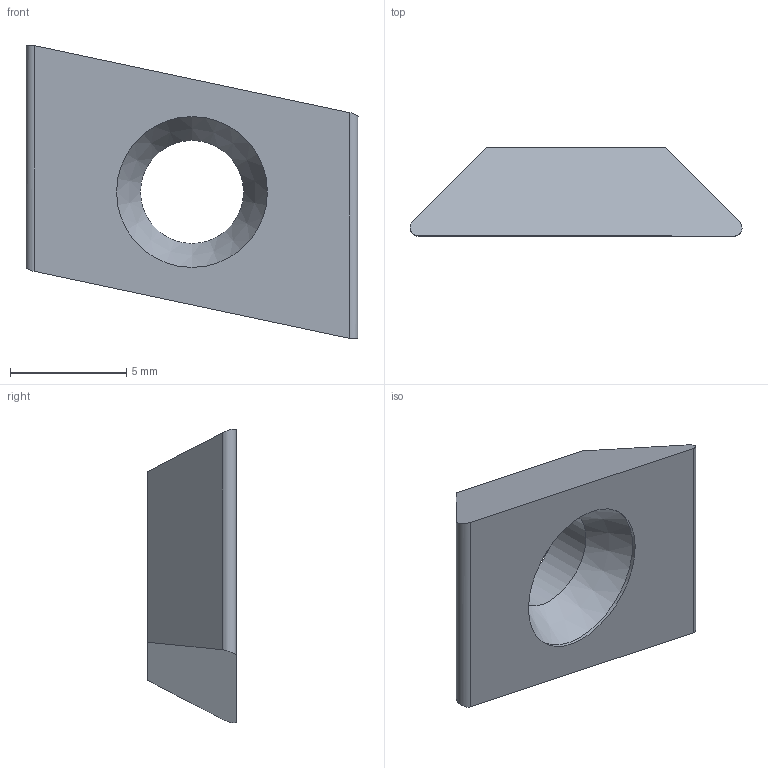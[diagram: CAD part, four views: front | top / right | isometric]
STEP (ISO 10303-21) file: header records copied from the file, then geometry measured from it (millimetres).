
FILE_DESCRIPTION (( 'STEP AP214' ), '1' );
FILE_NAME ('DC1750-B_WEBSITE.STEP', '2025-08-11T10:30:22', ( '' ), ( '' ), 'SwSTEP 2.0', 'SolidWorks 2024', '' );
FILE_SCHEMA (( 'AUTOMOTIVE_DESIGN' ));
Length unit declared in the file: inch
Products named in the file (1): DC1750-B_WEBSITE
Bounding box: 14.31 x 3.81 x 12.67 mm (x, y, z)
Volume: 300.2 mm3; surface area: 389.6 mm2
Topology: 1 solids, 1 shells, 11 faces, 25 edges, 16 vertices
Faces by surface type: plane 6, cylinder 4, cone 1
Full cylindrical faces by diameter (mm): 4.445 x1, 6.502 x1
Entity records: 323 total; most frequent: CARTESIAN_POINT 62, DIRECTION 46, ORIENTED_EDGE 44, EDGE_CURVE 22, VERTEX_POINT 16, EDGE_LOOP 16, AXIS2_PLACEMENT_3D 16, VECTOR 14
